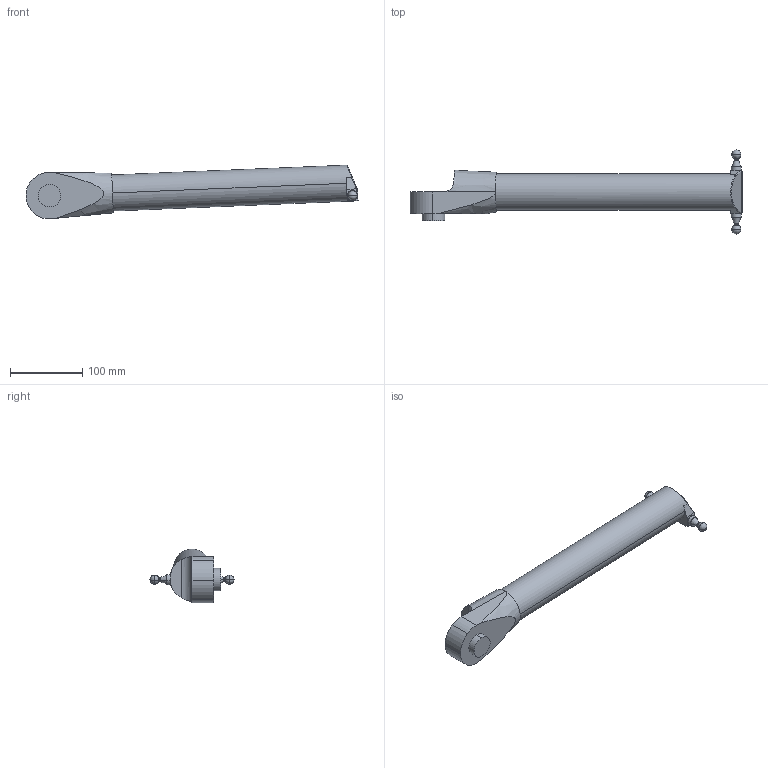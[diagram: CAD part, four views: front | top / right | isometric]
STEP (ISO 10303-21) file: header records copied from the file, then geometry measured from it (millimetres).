
FILE_DESCRIPTION (( 'STEP AP214' ), '1' );
FILE_NAME ('IRB365_1.5-1300_OmniCore_rev00_UPPER_ARM_1_CAD.step', '2025-09-09T11:52:41', ( '' ), ( '' ), 'SwSTEP 2.0', 'SolidWorks 2024', '' );
FILE_SCHEMA (( 'AUTOMOTIVE_DESIGN' ));
Length unit declared in the file: millimetre
Products named in the file (1): IRB365_1.5-1300_OmniCore_rev00_UPPER_ARM_1_CAD
Bounding box: 460.24 x 116.5 x 74.32 mm (x, y, z)
Volume: 953233.9 mm3; surface area: 83450.4 mm2
Topology: 1 solids, 1 shells, 86 faces, 201 edges, 111 vertices
Faces by surface type: plane 28, cylinder 27, torus 10, sphere 10, cone 6, bspline 5
Entity records: 3967 total; most frequent: CARTESIAN_POINT 1104, DIRECTION 439, ORIENTED_EDGE 374, EDGE_CURVE 187, AXIS2_PLACEMENT_3D 185, VERTEX_POINT 107, CIRCLE 103, EDGE_LOOP 90
